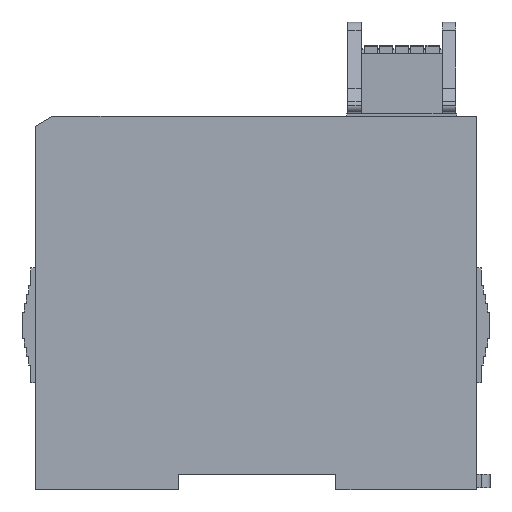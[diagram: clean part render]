
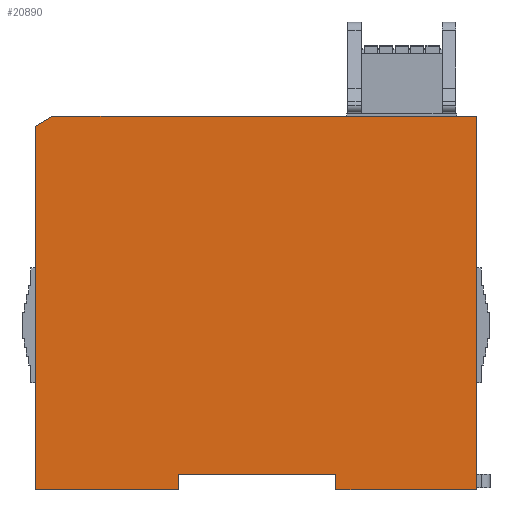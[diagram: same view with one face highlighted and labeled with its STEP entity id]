
A CAD part, left-side view. The second image highlights one B-rep face of the part: STEP entity #20890.
In plain terms, the highlighted planar face has unit normal (-1, 0, 0).
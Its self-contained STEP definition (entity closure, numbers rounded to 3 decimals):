
#614 = ORIENTED_EDGE ( 'NONE', *, *, #16684, .T. ) ;
#1255 = VERTEX_POINT ( 'NONE', #12863 ) ;
#1408 = VERTEX_POINT ( 'NONE', #18329 ) ;
#1593 = DIRECTION ( 'NONE',  ( 0., -1., 0. ) ) ;
#1887 = VECTOR ( 'NONE', #16056, 1000. ) ;
#2386 = DIRECTION ( 'NONE',  ( 0., 0.866, -0.5 ) ) ;
#3944 = ORIENTED_EDGE ( 'NONE', *, *, #20234, .T. ) ;
#4073 = ORIENTED_EDGE ( 'NONE', *, *, #6121, .T. ) ;
#4227 = CARTESIAN_POINT ( 'NONE',  ( 0., 100., 82.291 ) ) ;
#4261 = CARTESIAN_POINT ( 'NONE',  ( 0., 31.9, 44.05 ) ) ;
#5052 = EDGE_LOOP ( 'NONE', ( #614, #7177, #3944, #8263, #13056, #7501, #10826, #4073, #12891 ) ) ;
#6097 = VECTOR ( 'NONE', #18430, 1000. ) ;
#6121 = EDGE_CURVE ( 'NONE', #1408, #14192, #21536, .T. ) ;
#6137 = VECTOR ( 'NONE', #2386, 1000. ) ;
#6144 = VERTEX_POINT ( 'NONE', #12794 ) ;
#6171 = CARTESIAN_POINT ( 'NONE',  ( 0., 48., 0. ) ) ;
#6287 = CARTESIAN_POINT ( 'NONE',  ( 0., 100., 44.05 ) ) ;
#6786 = LINE ( 'NONE', #19214, #19275 ) ;
#6863 = VECTOR ( 'NONE', #14671, 1000. ) ;
#7177 = ORIENTED_EDGE ( 'NONE', *, *, #9043, .T. ) ;
#7501 = ORIENTED_EDGE ( 'NONE', *, *, #14669, .T. ) ;
#7557 = VERTEX_POINT ( 'NONE', #12940 ) ;
#7818 = DIRECTION ( 'NONE',  ( 0., 1., 0. ) ) ;
#7916 = DIRECTION ( 'NONE',  ( 0., 0., -1. ) ) ;
#7942 = EDGE_CURVE ( 'NONE', #1255, #1408, #22658, .T. ) ;
#8053 = VECTOR ( 'NONE', #11694, 1000. ) ;
#8263 = ORIENTED_EDGE ( 'NONE', *, *, #15798, .T. ) ;
#8932 = VERTEX_POINT ( 'NONE', #11926 ) ;
#9043 = EDGE_CURVE ( 'NONE', #17376, #6144, #9370, .T. ) ;
#9370 = LINE ( 'NONE', #19751, #1887 ) ;
#9665 = DIRECTION ( 'NONE',  ( 0., 0., 1. ) ) ;
#10826 = ORIENTED_EDGE ( 'NONE', *, *, #7942, .T. ) ;
#11162 = VECTOR ( 'NONE', #15914, 1000. ) ;
#11694 = DIRECTION ( 'NONE',  ( 0., -1., 0. ) ) ;
#11833 = VECTOR ( 'NONE', #7818, 1000. ) ;
#11914 = EDGE_CURVE ( 'NONE', #14192, #17278, #20181, .T. ) ;
#11926 = CARTESIAN_POINT ( 'NONE',  ( 0., 96., 84.6 ) ) ;
#12710 = LINE ( 'NONE', #19682, #6137 ) ;
#12794 = CARTESIAN_POINT ( 'NONE',  ( 0., 0., 84.6 ) ) ;
#12863 = CARTESIAN_POINT ( 'NONE',  ( 0., 67.5, 0. ) ) ;
#12891 = ORIENTED_EDGE ( 'NONE', *, *, #11914, .T. ) ;
#12940 = CARTESIAN_POINT ( 'NONE',  ( 0., 100., 0. ) ) ;
#13056 = ORIENTED_EDGE ( 'NONE', *, *, #19129, .T. ) ;
#13693 = CARTESIAN_POINT ( 'NONE',  ( 0., 67.5, 44.05 ) ) ;
#14192 = VERTEX_POINT ( 'NONE', #16681 ) ;
#14669 = EDGE_CURVE ( 'NONE', #7557, #1255, #6786, .T. ) ;
#14671 = DIRECTION ( 'NONE',  ( 0., -1., 0. ) ) ;
#15290 = CARTESIAN_POINT ( 'NONE',  ( 0., 31.9, 0. ) ) ;
#15798 = EDGE_CURVE ( 'NONE', #8932, #22017, #12710, .T. ) ;
#15914 = DIRECTION ( 'NONE',  ( 0., 0., 1. ) ) ;
#16056 = DIRECTION ( 'NONE',  ( 0., 0., 1. ) ) ;
#16681 = CARTESIAN_POINT ( 'NONE',  ( 0., 31.9, 3.5 ) ) ;
#16684 = EDGE_CURVE ( 'NONE', #17278, #17376, #16892, .T. ) ;
#16892 = LINE ( 'NONE', #6171, #8053 ) ;
#16919 = DIRECTION ( 'NONE',  ( -1., 0., 0. ) ) ;
#17278 = VERTEX_POINT ( 'NONE', #15290 ) ;
#17376 = VERTEX_POINT ( 'NONE', #18287 ) ;
#17517 = AXIS2_PLACEMENT_3D ( 'NONE', #20168, #16919, #9665 ) ;
#17790 = VECTOR ( 'NONE', #7916, 1000. ) ;
#18287 = CARTESIAN_POINT ( 'NONE',  ( 0., 0., 0. ) ) ;
#18329 = CARTESIAN_POINT ( 'NONE',  ( 0., 67.5, 3.5 ) ) ;
#18430 = DIRECTION ( 'NONE',  ( 0., 0., -1. ) ) ;
#19129 = EDGE_CURVE ( 'NONE', #22017, #7557, #22459, .T. ) ;
#19214 = CARTESIAN_POINT ( 'NONE',  ( 0., 48., 0. ) ) ;
#19275 = VECTOR ( 'NONE', #1593, 1000. ) ;
#19682 = CARTESIAN_POINT ( 'NONE',  ( 0., 96., 84.6 ) ) ;
#19751 = CARTESIAN_POINT ( 'NONE',  ( 0., 0., 44.05 ) ) ;
#19785 = CARTESIAN_POINT ( 'NONE',  ( 0., 48., 3.5 ) ) ;
#19936 = FACE_OUTER_BOUND ( 'NONE', #5052, .T. ) ;
#20168 = CARTESIAN_POINT ( 'NONE',  ( 0., 48., 44.05 ) ) ;
#20181 = LINE ( 'NONE', #4261, #6097 ) ;
#20234 = EDGE_CURVE ( 'NONE', #6144, #8932, #20362, .T. ) ;
#20362 = LINE ( 'NONE', #20489, #11833 ) ;
#20489 = CARTESIAN_POINT ( 'NONE',  ( 0., 48., 84.6 ) ) ;
#20890 = ADVANCED_FACE ( 'NONE', ( #19936 ), #22058, .T. ) ;
#21536 = LINE ( 'NONE', #19785, #6863 ) ;
#22017 = VERTEX_POINT ( 'NONE', #4227 ) ;
#22058 = PLANE ( 'NONE',  #17517 ) ;
#22459 = LINE ( 'NONE', #6287, #17790 ) ;
#22658 = LINE ( 'NONE', #13693, #11162 ) ;
